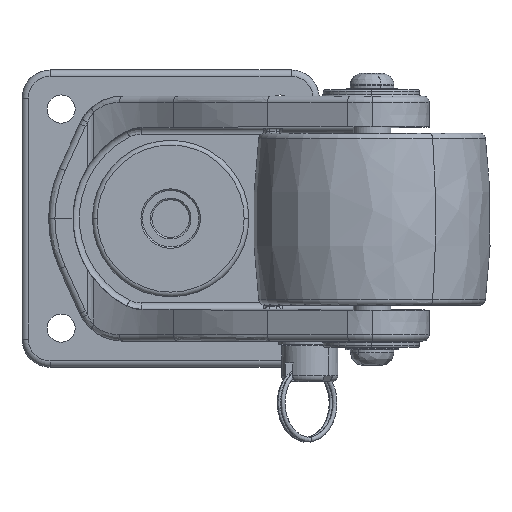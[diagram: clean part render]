
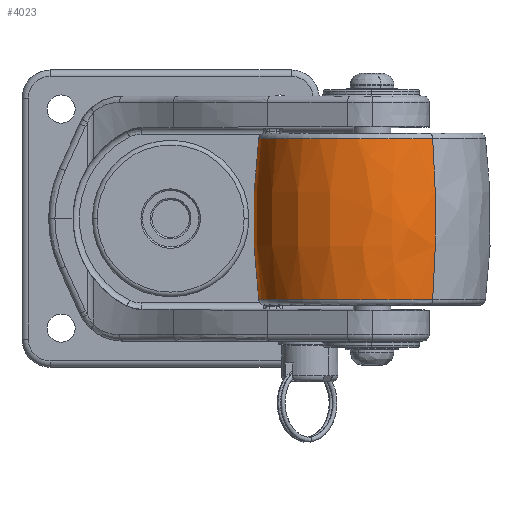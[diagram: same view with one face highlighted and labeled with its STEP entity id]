
A CAD part, front view. The second image highlights one B-rep face of the part: STEP entity #4023.
In plain terms, the highlighted free-form (B-spline) face has degree [3, 3] with [4, 4] control points.
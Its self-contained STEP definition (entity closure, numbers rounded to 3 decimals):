
#157=(
BOUNDED_SURFACE()
B_SPLINE_SURFACE(3,3,((#30827,#30828,#30829,#30830),(#30831,#30832,#30833,
#30834),(#30835,#30836,#30837,#30838),(#30839,#30840,#30841,#30842)),
 .UNSPECIFIED.,.F.,.F.,.F.)
B_SPLINE_SURFACE_WITH_KNOTS((4,4),(4,4),(0.,1.),(0.,1.),.UNSPECIFIED.)
GEOMETRIC_REPRESENTATION_ITEM()
RATIONAL_B_SPLINE_SURFACE(((1.,0.333,0.333,1.),
(0.994,0.331,0.331,0.994),
(0.994,0.331,0.331,0.994),
(1.,0.333,0.333,1.)))
REPRESENTATION_ITEM('')
SURFACE()
);
#4023=ADVANCED_FACE('',(#5039),#157,.T.);
#5039=FACE_OUTER_BOUND('',#6048,.T.);
#6048=EDGE_LOOP('',(#9202,#9203,#9204,#9205));
#9202=ORIENTED_EDGE('',*,*,#13850,.F.);
#9203=ORIENTED_EDGE('',*,*,#13851,.T.);
#9204=ORIENTED_EDGE('',*,*,#13852,.T.);
#9205=ORIENTED_EDGE('',*,*,#13853,.F.);
#11922=VERTEX_POINT('',#30820);
#11923=VERTEX_POINT('',#30821);
#11924=VERTEX_POINT('',#30823);
#11925=VERTEX_POINT('',#30825);
#13850=EDGE_CURVE('',#11922,#11923,#15473,.T.);
#13851=EDGE_CURVE('',#11922,#11924,#15474,.T.);
#13852=EDGE_CURVE('',#11924,#11925,#15475,.T.);
#13853=EDGE_CURVE('',#11923,#11925,#15476,.T.);
#15473=CIRCLE('',#17088,36.245);
#15474=CIRCLE('',#17089,190.063);
#15475=CIRCLE('',#17090,36.245);
#15476=CIRCLE('',#17091,190.062);
#17088=AXIS2_PLACEMENT_3D('',#30819,#20760,#20761);
#17089=AXIS2_PLACEMENT_3D('',#30822,#20762,#20763);
#17090=AXIS2_PLACEMENT_3D('',#30824,#20764,#20765);
#17091=AXIS2_PLACEMENT_3D('',#30826,#20766,#20767);
#20760=DIRECTION('',(0.,0.,1.));
#20761=DIRECTION('',(0.,1.,0.));
#20762=DIRECTION('',(-0.845,-0.534,0.));
#20763=DIRECTION('',(-0.529,0.837,0.136));
#20764=DIRECTION('',(0.,0.,1.));
#20765=DIRECTION('',(0.,-1.,0.));
#20766=DIRECTION('',(0.845,0.534,0.));
#20767=DIRECTION('',(0.529,-0.837,0.136));
#30819=CARTESIAN_POINT('',(67.085,-61.12,-10.182));
#30820=CARTESIAN_POINT('',(47.717,-30.484,-10.182));
#30821=CARTESIAN_POINT('',(86.453,-91.756,-10.182));
#30822=CARTESIAN_POINT('',(148.342,-189.651,-35.953));
#30823=CARTESIAN_POINT('',(47.717,-30.484,-61.725));
#30824=CARTESIAN_POINT('',(67.085,-61.12,-61.725));
#30825=CARTESIAN_POINT('',(86.453,-91.756,-61.725));
#30826=CARTESIAN_POINT('',(-14.172,67.411,-35.953));
#30827=CARTESIAN_POINT('',(47.717,-30.484,-10.182));
#30828=CARTESIAN_POINT('',(-13.555,-69.22,-10.182));
#30829=CARTESIAN_POINT('',(25.181,-130.492,-10.182));
#30830=CARTESIAN_POINT('',(86.453,-91.756,-10.182));
#30831=CARTESIAN_POINT('',(46.464,-28.503,-27.31));
#30832=CARTESIAN_POINT('',(-18.77,-69.744,-27.31));
#30833=CARTESIAN_POINT('',(22.471,-134.978,-27.31));
#30834=CARTESIAN_POINT('',(87.705,-93.737,-27.31));
#30835=CARTESIAN_POINT('',(46.464,-28.503,-44.597));
#30836=CARTESIAN_POINT('',(-18.77,-69.744,-44.597));
#30837=CARTESIAN_POINT('',(22.471,-134.978,-44.597));
#30838=CARTESIAN_POINT('',(87.705,-93.737,-44.597));
#30839=CARTESIAN_POINT('',(47.717,-30.484,-61.725));
#30840=CARTESIAN_POINT('',(-13.555,-69.22,-61.725));
#30841=CARTESIAN_POINT('',(25.181,-130.492,-61.725));
#30842=CARTESIAN_POINT('',(86.453,-91.756,-61.725));
